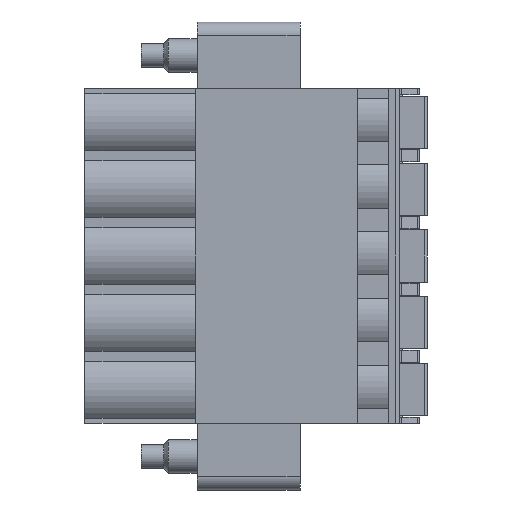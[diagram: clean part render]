
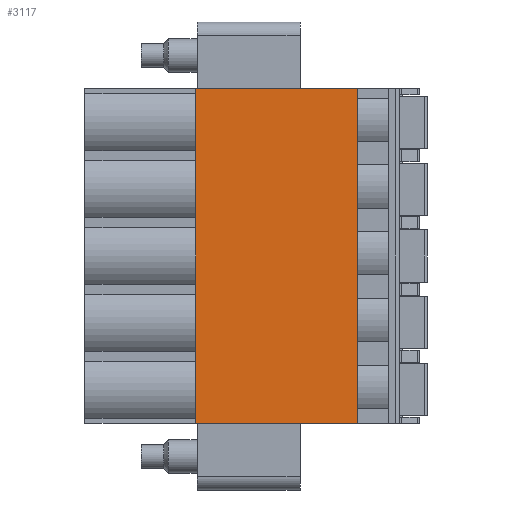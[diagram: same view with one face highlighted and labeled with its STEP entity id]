
A CAD part, front view. The second image highlights one B-rep face of the part: STEP entity #3117.
In plain terms, the highlighted planar face has unit normal (0, -1, 0).
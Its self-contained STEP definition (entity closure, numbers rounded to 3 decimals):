
#268 = LINE ( 'NONE', #7470, #7576 ) ;
#312 = EDGE_CURVE ( 'NONE', #4068, #1139, #268, .T. ) ;
#401 = DIRECTION ( 'NONE',  ( 0., 0., 1. ) ) ;
#1139 = VERTEX_POINT ( 'NONE', #10675 ) ;
#1270 = DIRECTION ( 'NONE',  ( -1., 0., 0. ) ) ;
#1303 = CARTESIAN_POINT ( 'NONE',  ( 12.08, 0., -2.3 ) ) ;
#1580 = VECTOR ( 'NONE', #401, 1000. ) ;
#1759 = VERTEX_POINT ( 'NONE', #2888 ) ;
#1869 = EDGE_CURVE ( 'NONE', #1759, #7108, #12773, .T. ) ;
#1880 = CARTESIAN_POINT ( 'NONE',  ( 12.08, 0., 0. ) ) ;
#1905 = CARTESIAN_POINT ( 'NONE',  ( 12.08, 0., -12.3 ) ) ;
#2888 = CARTESIAN_POINT ( 'NONE',  ( 12.08, 0., -22.3 ) ) ;
#3067 = VERTEX_POINT ( 'NONE', #16618 ) ;
#3081 = ORIENTED_EDGE ( 'NONE', *, *, #8098, .T. ) ;
#3112 = DIRECTION ( 'NONE',  ( 0., 0., 1. ) ) ;
#3117 = ADVANCED_FACE ( 'NONE', ( #6356 ), #15352, .T. ) ;
#3250 = EDGE_LOOP ( 'NONE', ( #5382, #13166, #10294, #3081, #15597, #15925, #15039, #6446, #10014 ) ) ;
#3398 = VECTOR ( 'NONE', #16458, 1000. ) ;
#4068 = VERTEX_POINT ( 'NONE', #11401 ) ;
#4190 = CARTESIAN_POINT ( 'NONE',  ( 4.215, 0., -25. ) ) ;
#4466 = LINE ( 'NONE', #4190, #10966 ) ;
#4503 = CARTESIAN_POINT ( 'NONE',  ( 12.08, 0., 0. ) ) ;
#5097 = VERTEX_POINT ( 'NONE', #1303 ) ;
#5355 = LINE ( 'NONE', #12740, #9717 ) ;
#5382 = ORIENTED_EDGE ( 'NONE', *, *, #8937, .F. ) ;
#6000 = VERTEX_POINT ( 'NONE', #1905 ) ;
#6356 = FACE_OUTER_BOUND ( 'NONE', #3250, .T. ) ;
#6446 = ORIENTED_EDGE ( 'NONE', *, *, #16840, .F. ) ;
#7035 = CARTESIAN_POINT ( 'NONE',  ( 12.08, 0., -12.5 ) ) ;
#7059 = VERTEX_POINT ( 'NONE', #12623 ) ;
#7093 = CARTESIAN_POINT ( 'NONE',  ( 12.08, 0., -12.5 ) ) ;
#7108 = VERTEX_POINT ( 'NONE', #10211 ) ;
#7187 = CARTESIAN_POINT ( 'NONE',  ( 12.08, 0., -12.5 ) ) ;
#7470 = CARTESIAN_POINT ( 'NONE',  ( 0., 0., -12.5 ) ) ;
#7576 = VECTOR ( 'NONE', #15562, 1000. ) ;
#7980 = VECTOR ( 'NONE', #13818, 1000. ) ;
#8098 = EDGE_CURVE ( 'NONE', #7108, #6000, #14370, .T. ) ;
#8196 = VECTOR ( 'NONE', #15397, 1000. ) ;
#8757 = EDGE_CURVE ( 'NONE', #5097, #9257, #5355, .T. ) ;
#8937 = EDGE_CURVE ( 'NONE', #7059, #1139, #4466, .T. ) ;
#9257 = VERTEX_POINT ( 'NONE', #12606 ) ;
#9717 = VECTOR ( 'NONE', #14145, 1000. ) ;
#9968 = EDGE_CURVE ( 'NONE', #7059, #1759, #17211, .T. ) ;
#10014 = ORIENTED_EDGE ( 'NONE', *, *, #312, .T. ) ;
#10211 = CARTESIAN_POINT ( 'NONE',  ( 12.08, 0., -17.3 ) ) ;
#10294 = ORIENTED_EDGE ( 'NONE', *, *, #1869, .T. ) ;
#10675 = CARTESIAN_POINT ( 'NONE',  ( 0., 0., -25. ) ) ;
#10966 = VECTOR ( 'NONE', #1270, 1000. ) ;
#11347 = LINE ( 'NONE', #12874, #8196 ) ;
#11401 = CARTESIAN_POINT ( 'NONE',  ( 0., 0., 0. ) ) ;
#11606 = B_SPLINE_CURVE_WITH_KNOTS ( 'NONE', 1,
 ( #13799, #4503 ),
 .UNSPECIFIED., .F., .F.,
 ( 2, 2 ),
 ( 0., 1. ),
 .UNSPECIFIED. ) ;
#12606 = CARTESIAN_POINT ( 'NONE',  ( 12.08, 0., 0. ) ) ;
#12623 = CARTESIAN_POINT ( 'NONE',  ( 12.08, 0., -25. ) ) ;
#12740 = CARTESIAN_POINT ( 'NONE',  ( 12.08, 0., -12.5 ) ) ;
#12773 = LINE ( 'NONE', #13759, #12973 ) ;
#12874 = CARTESIAN_POINT ( 'NONE',  ( 12.08, 0., -12.5 ) ) ;
#12973 = VECTOR ( 'NONE', #3112, 1000. ) ;
#13166 = ORIENTED_EDGE ( 'NONE', *, *, #9968, .T. ) ;
#13454 = LINE ( 'NONE', #7093, #3398 ) ;
#13759 = CARTESIAN_POINT ( 'NONE',  ( 12.08, 0., -12.5 ) ) ;
#13799 = CARTESIAN_POINT ( 'NONE',  ( 0., 0., 0. ) ) ;
#13818 = DIRECTION ( 'NONE',  ( 0., 0., 1. ) ) ;
#13928 = DIRECTION ( 'NONE',  ( -1., 0., 0. ) ) ;
#14145 = DIRECTION ( 'NONE',  ( 0., 0., 1. ) ) ;
#14370 = LINE ( 'NONE', #7187, #1580 ) ;
#14712 = EDGE_CURVE ( 'NONE', #6000, #3067, #13454, .T. ) ;
#15039 = ORIENTED_EDGE ( 'NONE', *, *, #8757, .T. ) ;
#15352 = PLANE ( 'NONE',  #16884 ) ;
#15373 = EDGE_CURVE ( 'NONE', #3067, #5097, #11347, .T. ) ;
#15397 = DIRECTION ( 'NONE',  ( 0., 0., 1. ) ) ;
#15562 = DIRECTION ( 'NONE',  ( 0., 0., -1. ) ) ;
#15597 = ORIENTED_EDGE ( 'NONE', *, *, #14712, .T. ) ;
#15925 = ORIENTED_EDGE ( 'NONE', *, *, #15373, .T. ) ;
#16458 = DIRECTION ( 'NONE',  ( 0., 0., 1. ) ) ;
#16504 = DIRECTION ( 'NONE',  ( 0., -1., 0. ) ) ;
#16618 = CARTESIAN_POINT ( 'NONE',  ( 12.08, 0., -7.3 ) ) ;
#16840 = EDGE_CURVE ( 'NONE', #4068, #9257, #11606, .T. ) ;
#16884 = AXIS2_PLACEMENT_3D ( 'NONE', #1880, #16504, #13928 ) ;
#17211 = LINE ( 'NONE', #7035, #7980 ) ;
